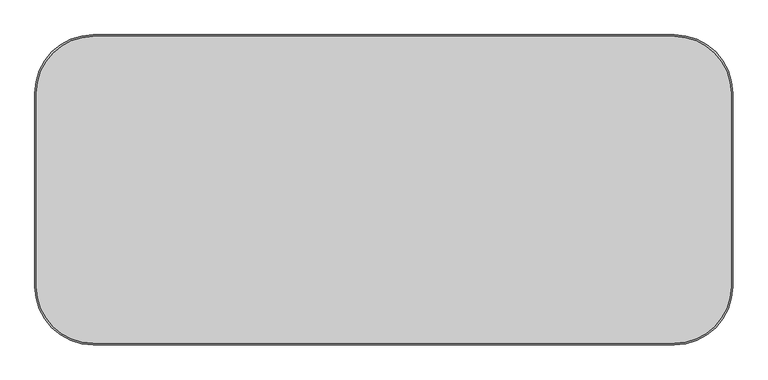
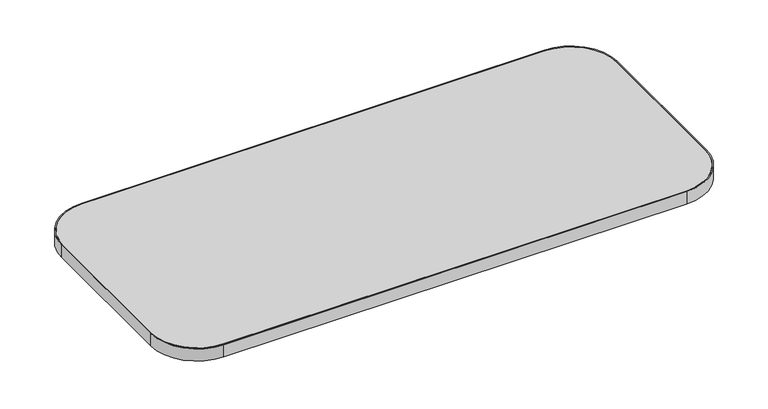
"""IFC4 building model written with IfcOpenShell, lengths in millimetres: furniture geometry, SmithSystem_AM_Desking_HeightAdjustable_Numbers_TwoStudent_Rectangle : 24″ x 54″."""

import ifcopenshell
import ifcopenshell.guid

model = None  # the IFC model being written
_history = None  # IfcOwnerHistory: only IFC2X3 demands one
_inside = {}  # id of a spatial element -> (the spatial element, [elements in it])
_under = {}  # id of a project, library or spatial element -> (it, [spatial elements below it])
_declared = {}  # id of a project -> (the project, [libraries it declares])
_typed = {}  # id of a type object -> (the type object, [elements of that type])
_made_of = {}  # id of a material, layer set ... -> (it, [elements and type objects made of it])


def new_model(schema):
    """Start an empty IFC model of exactly this schema.

    Asked for "IFC4X3", IfcOpenShell would pick the latest addendum, in which some entities
    have other attributes; the version numbers below select the first issue.
    IFC2X3 requires an IfcOwnerHistory on every rooted entity: one is made here for all.
    """
    global model, _history
    if schema == "IFC4X3":
        model = ifcopenshell.file(schema_version=(4, 3, 0, 0))
    else:
        model = ifcopenshell.file(schema=schema)
    _inside.clear()
    _under.clear()
    _declared.clear()
    _typed.clear()
    _made_of.clear()
    _history = None
    if model.schema == "IFC2X3":
        org = make("IfcOrganization", Name="unknown")
        user = make(
            "IfcPersonAndOrganization",
            ThePerson=make("IfcPerson", FamilyName="unknown"),
            TheOrganization=org,
        )
        app = make(
            "IfcApplication",
            ApplicationDeveloper=org,
            Version="unknown",
            ApplicationFullName="unknown",
            ApplicationIdentifier="unknown",
        )
        _history = make(
            "IfcOwnerHistory",
            OwningUser=user,
            OwningApplication=app,
            ChangeAction="ADDED",
            CreationDate=0,
        )
    return model


def make(cls, **values):
    """One entity of the class cls with the attributes given. An attribute that is None is left unset."""
    return model.create_entity(
        cls, **{name: value for name, value in values.items() if value is not None}
    )


def rooted(cls, **values):
    """An entity with a GlobalId (a new one), such as an element, a storey or a relation."""
    return make(cls, GlobalId=ifcopenshell.guid.new(), OwnerHistory=_history, **values)


def si_unit(unit_type, name, prefix=None):
    """IfcSIUnit, for example si_unit("LENGTHUNIT", "METRE", prefix="MILLI")."""
    return make("IfcSIUnit", UnitType=unit_type, Prefix=prefix, Name=name)


def assignment(units):
    """IfcUnitAssignment: the units of a project."""
    return None if units is None else make("IfcUnitAssignment", Units=units)


def point(xyz):
    """IfcCartesianPoint."""
    return None if xyz is None else make("IfcCartesianPoint", Coordinates=xyz)


def direction(xyz):
    """IfcDirection."""
    return None if xyz is None else make("IfcDirection", DirectionRatios=xyz)


def frame(location, z_axis=None, x_axis=None):
    """IfcAxis2Placement3D, a coordinate frame: its origin and axes. An axis left out is left unset."""
    return make(
        "IfcAxis2Placement3D",
        Location=point(location),
        Axis=direction(z_axis),
        RefDirection=direction(x_axis),
    )


def frame_2d(location, x_axis=None):
    """IfcAxis2Placement2D, a coordinate frame in the plane: its origin and x axis."""
    return make(
        "IfcAxis2Placement2D", Location=point(location), RefDirection=direction(x_axis)
    )


def origin():
    """The frame at (0, 0, 0) with its axes left unset."""
    return frame((0.0, 0.0, 0.0))


def place(relative_to, where):
    """IfcLocalPlacement: puts the frame where relative to a parent placement (None: the world)."""
    return make(
        "IfcLocalPlacement", PlacementRelTo=relative_to, RelativePlacement=where
    )


def context(
    kind, dimensions, precision=None, world=None, true_north=None, identifier=None
):
    """IfcGeometricRepresentationContext, for example the 3D "Model" context."""
    return make(
        "IfcGeometricRepresentationContext",
        ContextIdentifier=identifier,
        ContextType=kind,
        CoordinateSpaceDimension=dimensions,
        Precision=precision,
        WorldCoordinateSystem=world,
        TrueNorth=true_north,
    )


def project(units=None, contexts=None):
    """IfcProject with its units and contexts."""
    return rooted(
        "IfcProject",
        Name="project",
        RepresentationContexts=contexts,
        UnitsInContext=assignment(units),
    )


def spatial(cls, under=None, at=None, **own):
    """A site, building, storey or space (cls), placed at a placement, below another one or the project."""
    s = rooted(cls, ObjectPlacement=at, **own)
    if under is not None:
        _under.setdefault(under.id(), (under, []))[1].append(s)
    return s


def polyline(points):
    """IfcPolyline through the points."""
    return make("IfcPolyline", Points=[point(p) for p in points])


def circle_curve(where, radius):
    """IfcCircle in the frame where."""
    return make("IfcCircle", Position=where, Radius=radius)


def trimmed(basis, trim1, trim2, sense, master):
    """IfcTrimmedCurve: the piece of a basis curve between two trims."""
    return make(
        "IfcTrimmedCurve",
        BasisCurve=basis,
        Trim1=trim1,
        Trim2=trim2,
        SenseAgreement=sense,
        MasterRepresentation=master,
    )


def segment(curve, same_sense, transition):
    """IfcCompositeCurveSegment."""
    return make(
        "IfcCompositeCurveSegment",
        Transition=transition,
        SameSense=same_sense,
        ParentCurve=curve,
    )


def composite_curve(segments, self_intersect=None):
    """IfcCompositeCurve: segments joined end to end."""
    return make("IfcCompositeCurve", Segments=segments, SelfIntersect=self_intersect)


def outline(outer, holes=None, kind="AREA"):
    """IfcArbitraryClosedProfileDef: a profile drawn as a closed curve; with holes, ...WithVoids."""
    if holes is None:
        return make("IfcArbitraryClosedProfileDef", ProfileType=kind, OuterCurve=outer)
    return make(
        "IfcArbitraryProfileDefWithVoids",
        ProfileType=kind,
        OuterCurve=outer,
        InnerCurves=holes,
    )


def extrude(swept, where, along, depth):
    """IfcExtrudedAreaSolid: the profile swept, set in the frame where, extruded along a direction by depth."""
    return make(
        "IfcExtrudedAreaSolid",
        SweptArea=swept,
        Position=where,
        ExtrudedDirection=direction(along),
        Depth=depth,
    )


def shape(context_of_items, identifier, shape_type, items):
    """IfcShapeRepresentation: the items that make up one representation, for example the "Body"."""
    return make(
        "IfcShapeRepresentation",
        ContextOfItems=context_of_items,
        RepresentationIdentifier=identifier,
        RepresentationType=shape_type,
        Items=items,
    )


def source(mapping_origin, context_of_items, identifier, shape_type, items):
    """IfcRepresentationMap: a shape defined once, which mapped items show again and again."""
    return make(
        "IfcRepresentationMap",
        MappingOrigin=mapping_origin,
        MappedRepresentation=shape(context_of_items, identifier, shape_type, items),
    )


def transform(
    local_origin,
    x_axis=None,
    y_axis=None,
    z_axis=None,
    scale=None,
    scale2=None,
    scale3=None,
    uniform=True,
):
    """IfcCartesianTransformationOperator3D, or its non-uniform kind. x_axis, y_axis, z_axis: its Axis1, 2, 3."""
    if uniform:
        return make(
            "IfcCartesianTransformationOperator3D",
            Axis1=direction(x_axis),
            Axis2=direction(y_axis),
            LocalOrigin=point(local_origin),
            Scale=scale,
            Axis3=direction(z_axis),
        )
    return make(
        "IfcCartesianTransformationOperator3DnonUniform",
        Axis1=direction(x_axis),
        Axis2=direction(y_axis),
        LocalOrigin=point(local_origin),
        Scale=scale,
        Axis3=direction(z_axis),
        Scale2=scale2,
        Scale3=scale3,
    )


def mapped(mapping_source, mapping_target):
    """IfcMappedItem: shows the shape of a source again, moved by a transform."""
    return make(
        "IfcMappedItem", MappingSource=mapping_source, MappingTarget=mapping_target
    )


def made_of(thing, what):
    """Note that an element or type object is made of a material, layer set ...; save() writes the relation."""
    if what is not None:
        _made_of.setdefault(what.id(), (what, []))[1].append(thing)
    return thing


def element(
    cls,
    number,
    at=None,
    inside=None,
    cuts=None,
    type_object=None,
    material=None,
    context=None,
    identifier="Body",
    shape_type=None,
    held_by="IfcProductDefinitionShape",
    body=None,
    shapes=None,
    **own,
):
    """One element of the class cls, such as IfcWall. Its Tag is "e" and its number.

    at: its placement. inside: the storey or other place that contains it. cuts: it is an
    opening in that element (IfcRelVoidsElement). A single representation is given by context,
    identifier, shape_type and body (its items); several are given by shapes. held_by: the class
    of the entity that holds the representations. save() writes the other relations.
    """
    e = rooted(cls, Tag="e%d" % number, ObjectPlacement=at, **own)
    if body is not None:
        shapes = [shape(context, identifier, shape_type, body)]
    if shapes is not None:
        e.Representation = make(held_by, Representations=shapes)
    if inside is not None:
        _inside.setdefault(inside.id(), (inside, []))[1].append(e)
    if cuts is not None:
        rooted(
            "IfcRelVoidsElement", RelatingBuildingElement=cuts, RelatedOpeningElement=e
        )
    if type_object is not None:
        _typed.setdefault(type_object.id(), (type_object, []))[1].append(e)
    return made_of(e, material)


def aggregate(whole, parts):
    """IfcRelAggregates: a whole, such as a stair, and the parts it consists of."""
    return rooted("IfcRelAggregates", RelatingObject=whole, RelatedObjects=parts)


def save(model, path):
    """Write the relations noted so far, then the file.

    IfcRelAggregates (storeys below a building ...), IfcRelContainedInSpatialStructure (elements
    in a storey), IfcRelDefinesByType, IfcRelAssociatesMaterial and IfcRelDeclares: one each for
    every whole, place, type object, material and project.
    """
    for whole, parts in _under.values():
        aggregate(whole, parts)
    for where, things in _inside.values():
        rooted(
            "IfcRelContainedInSpatialStructure",
            RelatedElements=things,
            RelatingStructure=where,
        )
    for kind, things in _typed.values():
        rooted("IfcRelDefinesByType", RelatedObjects=things, RelatingType=kind)
    for what, things in _made_of.values():
        rooted("IfcRelAssociatesMaterial", RelatedObjects=things, RelatingMaterial=what)
    for by, libraries in _declared.values():
        rooted("IfcRelDeclares", RelatingContext=by, RelatedDefinitions=libraries)
    model.write(path)


def furniture_afb029f8(model_context):
    return source(origin(), model_context, "Body", "SweptSolid", [
        extrude(outline(composite_curve([segment(polyline([(3.048, 114.3), (3.048, 495.3)]), True, "CONTINUOUS"), segment(trimmed(circle_curve(frame_2d((114.3, 495.3)), 111.252), [point((3.048, 495.3))], [point((114.3, 606.552))], False, "CARTESIAN"), True, "CONTINUOUS"), segment(polyline([(114.3, 606.552), (1257.3, 606.552)]), True, "CONTINUOUS"), segment(trimmed(circle_curve(frame_2d((1257.3, 495.3)), 111.252), [point((1257.3, 606.552))], [point((1368.552, 495.3))], False, "CARTESIAN"), True, "CONTINUOUS"), segment(polyline([(1368.552, 495.3), (1368.552, 114.3)]), True, "CONTINUOUS"), segment(trimmed(circle_curve(frame_2d((1257.3, 114.3)), 111.252), [point((1368.552, 114.3))], [point((1257.3, 3.048))], False, "CARTESIAN"), True, "CONTINUOUS"), segment(polyline([(1257.3, 3.048), (114.3, 3.048)]), True, "CONTINUOUS"), segment(trimmed(circle_curve(frame_2d((114.3, 114.3)), 111.252), [point((114.3, 3.048))], [point((3.048, 114.3))], False, "CARTESIAN"), True, "CONTINUOUS")], self_intersect=False)), frame((0.0, 0.0, 590.1230576), z_axis=(0.0, 0.0, 1.0), x_axis=(1.0, 0.0, 0.0)), (0.0, 0.0, 1.0), 31.9229424),
        extrude(outline(composite_curve([segment(polyline([(1257.3, 0.0), (114.3, 0.0)]), True, "CONTINUOUS"), segment(trimmed(circle_curve(frame_2d((114.3, 114.3)), 114.3), [point((114.3, 0.0))], [point((0.0, 114.3))], False, "CARTESIAN"), True, "CONTINUOUS"), segment(polyline([(0.0, 114.3), (0.0, 495.3)]), True, "CONTINUOUS"), segment(trimmed(circle_curve(frame_2d((114.3, 495.3)), 114.3), [point((0.0, 495.3))], [point((114.3, 609.6))], False, "CARTESIAN"), True, "CONTINUOUS"), segment(polyline([(114.3, 609.6), (1257.3, 609.6)]), True, "CONTINUOUS"), segment(trimmed(circle_curve(frame_2d((1257.3, 495.3)), 114.3), [point((1257.3, 609.6))], [point((1371.6, 495.3))], False, "CARTESIAN"), True, "CONTINUOUS"), segment(polyline([(1371.6, 495.3), (1371.6, 114.3)]), True, "CONTINUOUS"), segment(trimmed(circle_curve(frame_2d((1257.3, 114.3)), 114.3), [point((1371.6, 114.3))], [point((1257.3, 0.0))], False, "CARTESIAN"), True, "CONTINUOUS")], self_intersect=False), holes=[composite_curve([segment(polyline([(114.3, 3.048), (1257.3, 3.048)]), True, "CONTINUOUS"), segment(trimmed(circle_curve(frame_2d((1257.3, 114.3)), 111.252), [point((1257.3, 3.048))], [point((1368.552, 114.3))], True, "CARTESIAN"), True, "CONTINUOUS"), segment(polyline([(1368.552, 114.3), (1368.552, 495.3)]), True, "CONTINUOUS"), segment(trimmed(circle_curve(frame_2d((1257.3, 495.3)), 111.252), [point((1368.552, 495.3))], [point((1257.3, 606.552))], True, "CARTESIAN"), True, "CONTINUOUS"), segment(polyline([(1257.3, 606.552), (114.3, 606.552)]), True, "CONTINUOUS"), segment(trimmed(circle_curve(frame_2d((114.3, 495.3)), 111.252), [point((114.3, 606.552))], [point((3.048, 495.3))], True, "CARTESIAN"), True, "CONTINUOUS"), segment(polyline([(3.048, 495.3), (3.048, 114.3)]), True, "CONTINUOUS"), segment(trimmed(circle_curve(frame_2d((114.3, 114.3)), 111.252), [point((3.048, 114.3))], [point((114.3, 3.048))], True, "CARTESIAN"), True, "CONTINUOUS")], self_intersect=False)]), frame((0.0, 0.0, 590.1230576), z_axis=(0.0, 0.0, 1.0), x_axis=(1.0, 0.0, 0.0)), (0.0, 0.0, 1.0), 31.9229424),
        extrude(outline(composite_curve([segment(trimmed(circle_curve(frame_2d((79.8535531, 192.349788)), 10.907587), [point((71.7988774, 199.7048987))], [point((82.9168603, 202.8183888))], False, "CARTESIAN"), True, "CONTINUOUS"), segment(trimmed(circle_curve(frame_2d((39.5528179, 54.6253383)), 154.4073197), [point((82.9168603, 202.8183888))], [point((94.8071128, 198.8078035))], False, "CARTESIAN"), True, "CONTINUOUS"), segment(trimmed(circle_curve(frame_2d((39.5528179, 54.6253383)), 154.4073197), [point((94.8071128, 198.8078035))], [point((183.7352831, 109.8796332))], False, "CARTESIAN"), True, "CONTINUOUS"), segment(trimmed(circle_curve(frame_2d((39.5528179, 54.6253383)), 154.4073197), [point((183.7352831, 109.8796332))], [point((187.7458684, 97.9893807))], False, "CARTESIAN"), True, "CONTINUOUS"), segment(trimmed(circle_curve(frame_2d((177.2772676, 94.9260735)), 10.907587), [point((187.7458684, 97.9893807))], [point((184.6335228, 86.872443))], False, "CARTESIAN"), True, "CONTINUOUS"), segment(polyline([(184.6335228, 86.872443), (108.1695493, 50.4221662)]), True, "CONTINUOUS"), segment(trimmed(circle_curve(frame_2d((84.6621745, 99.7350229)), 54.6292459), [point((108.1695493, 50.4221662))], [point((35.349314, 123.2423896))], False, "CARTESIAN"), True, "CONTINUOUS"), segment(polyline([(35.349314, 123.2423896), (71.7988774, 199.7048987)]), True, "CONTINUOUS")], self_intersect=False)), frame((0.0, 0.0, 585.5412941), z_axis=(0.0, 0.0, 1.0), x_axis=(1.0, 0.0, 0.0)), (0.0, 0.0, 1.0), 4.5817635),
        extrude(outline(composite_curve([segment(polyline([(71.7988774, 422.5641167), (35.349314, 499.0266257)]), True, "CONTINUOUS"), segment(trimmed(circle_curve(frame_2d((84.6621745, 522.5339924)), 54.6292459), [point((35.349314, 499.0266257))], [point((108.1695493, 571.8468491))], False, "CARTESIAN"), True, "CONTINUOUS"), segment(polyline([(108.1695493, 571.8468491), (184.6335228, 535.3965723)]), True, "CONTINUOUS"), segment(trimmed(circle_curve(frame_2d((177.2772676, 527.3429419)), 10.907587), [point((184.6335228, 535.3965723))], [point((187.7458684, 524.2796346))], False, "CARTESIAN"), True, "CONTINUOUS"), segment(trimmed(circle_curve(frame_2d((39.5528179, 567.6436771)), 154.4073197), [point((187.7458684, 524.2796346))], [point((183.7352831, 512.3893822))], False, "CARTESIAN"), True, "CONTINUOUS"), segment(trimmed(circle_curve(frame_2d((39.5528179, 567.6436771)), 154.4073197), [point((183.7352831, 512.3893822))], [point((94.8071128, 423.4612118))], False, "CARTESIAN"), True, "CONTINUOUS"), segment(trimmed(circle_curve(frame_2d((39.5528179, 567.6436771)), 154.4073197), [point((94.8071128, 423.4612118))], [point((82.9168603, 419.4506266))], False, "CARTESIAN"), True, "CONTINUOUS"), segment(trimmed(circle_curve(frame_2d((79.8535531, 429.9192273)), 10.907587), [point((82.9168603, 419.4506266))], [point((71.7988774, 422.5641167))], False, "CARTESIAN"), True, "CONTINUOUS")], self_intersect=False)), frame((0.0, 0.0, 585.5412941), z_axis=(0.0, 0.0, 1.0), x_axis=(1.0, 0.0, 0.0)), (0.0, 0.0, 1.0), 4.5817635),
        extrude(outline(composite_curve([segment(polyline([(1299.8011226, 199.7048987), (1336.250686, 123.2423896)]), True, "CONTINUOUS"), segment(trimmed(circle_curve(frame_2d((1286.9378255, 99.7350229)), 54.6292459), [point((1336.250686, 123.2423896))], [point((1263.4304507, 50.4221662))], False, "CARTESIAN"), True, "CONTINUOUS"), segment(polyline([(1263.4304507, 50.4221662), (1186.9664772, 86.872443)]), True, "CONTINUOUS"), segment(trimmed(circle_curve(frame_2d((1194.3227324, 94.9260735)), 10.907587), [point((1186.9664772, 86.872443))], [point((1183.8541316, 97.9893807))], False, "CARTESIAN"), True, "CONTINUOUS"), segment(trimmed(circle_curve(frame_2d((1332.0471821, 54.6253383)), 154.4073197), [point((1183.8541316, 97.9893807))], [point((1187.8647169, 109.8796332))], False, "CARTESIAN"), True, "CONTINUOUS"), segment(trimmed(circle_curve(frame_2d((1332.0471821, 54.6253383)), 154.4073197), [point((1187.8647169, 109.8796332))], [point((1276.7928872, 198.8078035))], False, "CARTESIAN"), True, "CONTINUOUS"), segment(trimmed(circle_curve(frame_2d((1332.0471821, 54.6253383)), 154.4073197), [point((1276.7928872, 198.8078035))], [point((1288.6831397, 202.8183888))], False, "CARTESIAN"), True, "CONTINUOUS"), segment(trimmed(circle_curve(frame_2d((1291.7464469, 192.349788)), 10.907587), [point((1288.6831397, 202.8183888))], [point((1299.8011226, 199.7048987))], False, "CARTESIAN"), True, "CONTINUOUS")], self_intersect=False)), frame((0.0, 0.0, 585.5412941), z_axis=(0.0, 0.0, 1.0), x_axis=(1.0, 0.0, 0.0)), (0.0, 0.0, 1.0), 4.5817635),
        extrude(outline(composite_curve([segment(trimmed(circle_curve(frame_2d((1291.7464469, 429.9192273)), 10.907587), [point((1299.8011226, 422.5641167))], [point((1288.6831397, 419.4506266))], False, "CARTESIAN"), True, "CONTINUOUS"), segment(trimmed(circle_curve(frame_2d((1332.0471821, 567.6436771)), 154.4073197), [point((1288.6831397, 419.4506266))], [point((1276.7928872, 423.4612118))], False, "CARTESIAN"), True, "CONTINUOUS"), segment(trimmed(circle_curve(frame_2d((1332.0471821, 567.6436771)), 154.4073197), [point((1276.7928872, 423.4612118))], [point((1187.8647169, 512.3893822))], False, "CARTESIAN"), True, "CONTINUOUS"), segment(trimmed(circle_curve(frame_2d((1332.0471821, 567.6436771)), 154.4073197), [point((1187.8647169, 512.3893822))], [point((1183.8541316, 524.2796346))], False, "CARTESIAN"), True, "CONTINUOUS"), segment(trimmed(circle_curve(frame_2d((1194.3227324, 527.3429419)), 10.907587), [point((1183.8541316, 524.2796346))], [point((1186.9664772, 535.3965723))], False, "CARTESIAN"), True, "CONTINUOUS"), segment(polyline([(1186.9664772, 535.3965723), (1263.4304507, 571.8468491)]), True, "CONTINUOUS"), segment(trimmed(circle_curve(frame_2d((1286.9378255, 522.5339924)), 54.6292459), [point((1263.4304507, 571.8468491))], [point((1336.250686, 499.0266257))], False, "CARTESIAN"), True, "CONTINUOUS"), segment(polyline([(1336.250686, 499.0266257), (1299.8011226, 422.5641167)]), True, "CONTINUOUS")], self_intersect=False)), frame((0.0, 0.0, 585.5412941), z_axis=(0.0, 0.0, 1.0), x_axis=(1.0, 0.0, 0.0)), (0.0, 0.0, 1.0), 4.5817635),
    ])


if __name__ == "__main__":
    model = new_model("IFC4")
    model_context = context("Model", 3, world=origin())
    ifc_project = project(units=[si_unit("LENGTHUNIT", "METRE", prefix="MILLI")], contexts=[model_context])
    site = spatial("IfcSite", under=ifc_project)
    building = spatial("IfcBuilding", under=site)
    placement = place(None, origin())
    furniture_shape = furniture_afb029f8(model_context)
    element("IfcFurniture", 1, ObjectType="SmithSystem_AM_Desking_HeightAdjustable_Numbers_TwoStudent_Rectangle : 24″ x 54″", at=placement, inside=building, context=model_context, shape_type="MappedRepresentation", body=[
        mapped(furniture_shape, transform((0.0, 0.0, 0.0), x_axis=(1.0, 0.0, 0.0), y_axis=(0.0, 1.0, 0.0), z_axis=(0.0, 0.0, 1.0))),
    ])
    save(model, "model.ifc")
